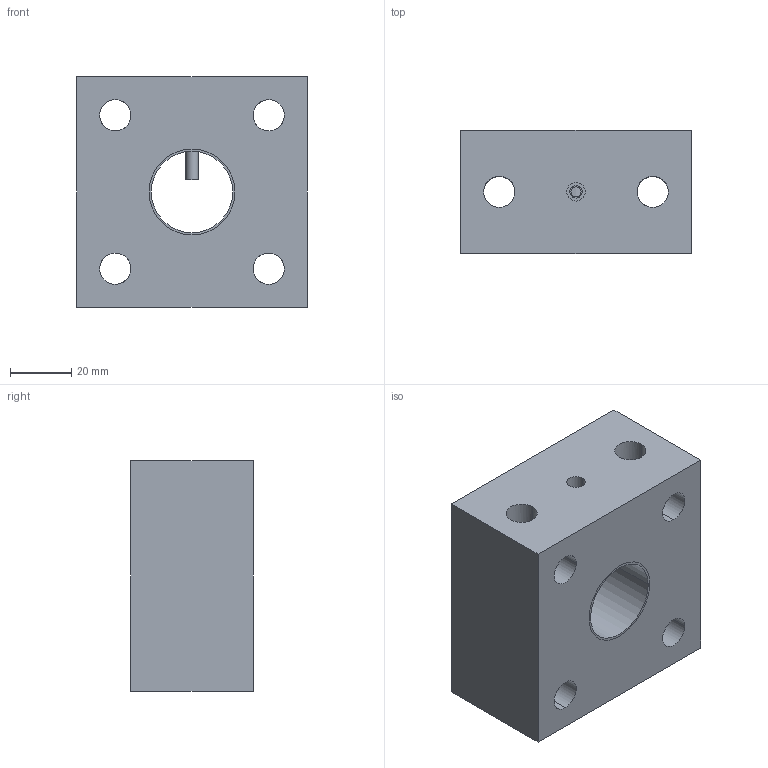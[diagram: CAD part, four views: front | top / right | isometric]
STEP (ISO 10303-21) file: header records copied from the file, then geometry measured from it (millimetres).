
FILE_DESCRIPTION((''),'2;1');
FILE_NAME('MF-282','2011-08-19T',('chad.steele'),(''),'PRO/ENGINEER BY PARAMETRIC TECHNOLOGY CORPORATION, 2010040','PRO/ENGINEER BY PARAMETRIC TECHNOLOGY CORPORATION, 2010040','');
FILE_SCHEMA(('CONFIG_CONTROL_DESIGN'));
Length unit declared in the file: millimetre
Products named in the file (1): MF-282
Bounding box: 75 x 40 x 75 mm (x, y, z)
Volume: 179963.2 mm3; surface area: 36888.8 mm2
Topology: 1 solids, 3 shells, 46 faces, 120 edges, 70 vertices
Faces by surface type: cylinder 38, plane 8
Entity records: 1743 total; most frequent: CARTESIAN_POINT 555, DIRECTION 232, ORIENTED_EDGE 232, EDGE_CURVE 120, AXIS2_PLACEMENT_3D 91, VERTEX_POINT 70, EDGE_LOOP 64, VECTOR 50
